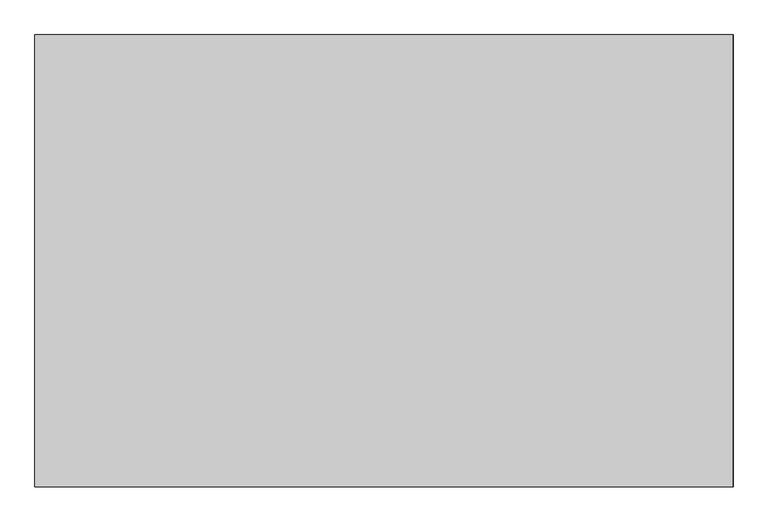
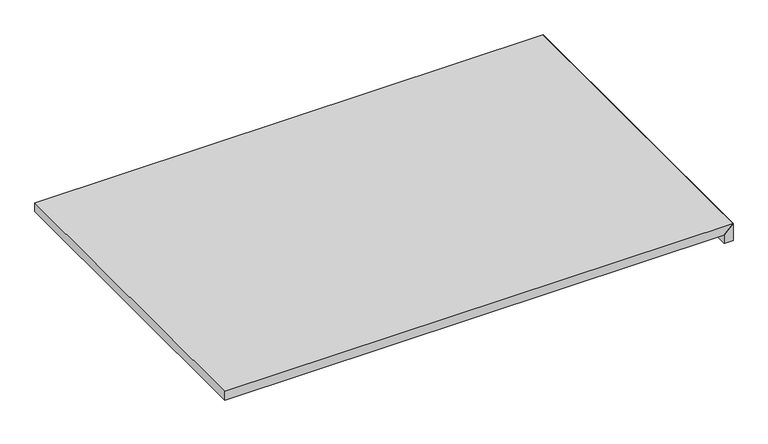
"""IFC4 building model written with IfcOpenShell, lengths in millimetres: proxy geometry, BASYS^OFFICE 3_WALL HUNGS-TACKBOARD."""

from ifc_helpers import new_model, si_unit, frame, origin, place, context, project, spatial, polyline, outline, extrude, source, transform, mapped, element, save


def generic_models_a2ea1d8e(model_context):
    return source(origin(), model_context, "Body", "SweptSolid", [
        extrude(outline(polyline([(-19.05, 1046.95625), (-19.05, 1066.00625), (19.05, 1066.00625), (0.0, 1046.95625), (-19.05, 1046.95625)])), frame((0.0, 0.0, 0.0), z_axis=(0.0, 1.0, 0.0), x_axis=(0.0, 0.0, 1.0)), (0.0, 0.0, 1.0), 690.5625),
        extrude(outline(polyline([(0.0, 1046.95625), (19.05, 1066.00625), (19.05, 0.0), (0.0, 0.0), (0.0, 1046.95625)])), frame((0.0, 0.0, 0.0), z_axis=(0.0, 1.0, 0.0), x_axis=(0.0, 0.0, 1.0)), (0.0, 0.0, 1.0), 690.5625),
    ])


if __name__ == "__main__":
    model = new_model("IFC4")
    model_context = context("Model", 3, world=origin())
    ifc_project = project(units=[si_unit("LENGTHUNIT", "METRE", prefix="MILLI")], contexts=[model_context])
    site = spatial("IfcSite", under=ifc_project)
    building = spatial("IfcBuilding", under=site)
    placement = place(None, origin())
    generic_models_shape = generic_models_a2ea1d8e(model_context)
    element("IfcBuildingElementProxy", 1, Name="BASYS^OFFICE 3_WALL HUNGS-TACKBOARD", ObjectType="BASYS^OFFICE 3_WALL HUNGS-TACKBOARD", at=placement, inside=building, context=model_context, shape_type="MappedRepresentation", body=[
        mapped(generic_models_shape, transform((0.0, 0.0, 0.0), x_axis=(1.0, 0.0, 0.0), y_axis=(0.0, 1.0, 0.0), z_axis=(0.0, 0.0, 1.0))),
    ])
    save(model, "model.ifc")
